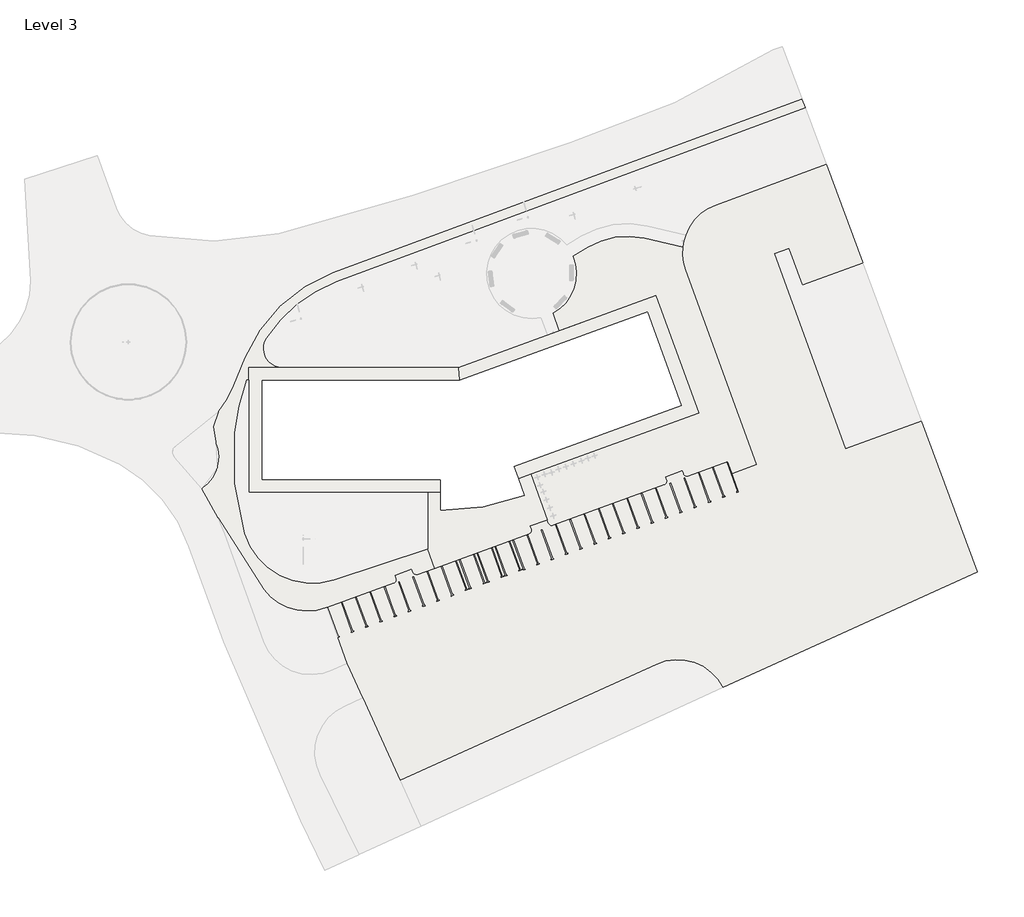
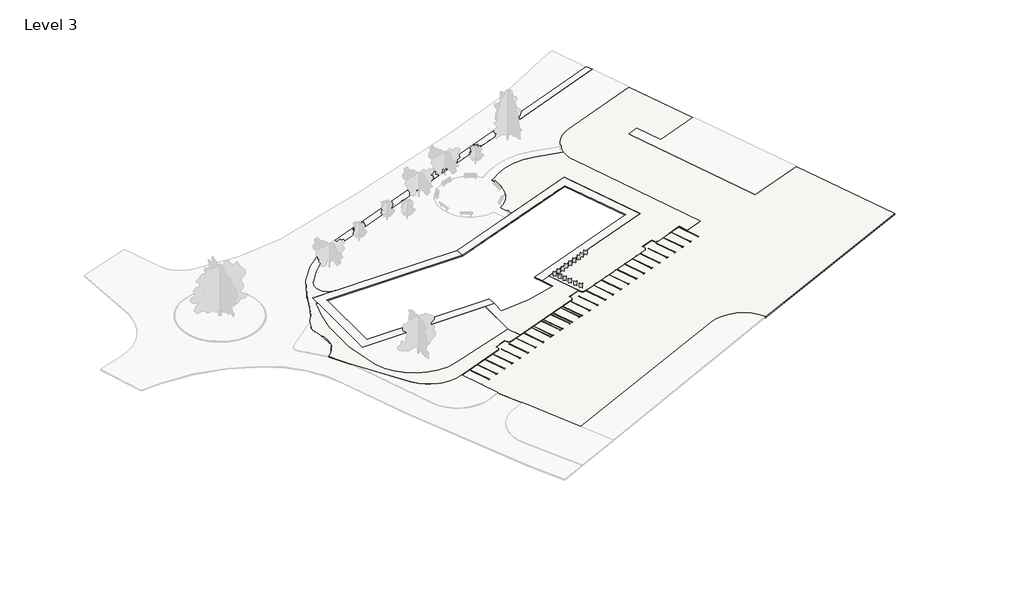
# One storey, part 2 of 3: 4 slabs.
"""IFC4 building model written with IfcOpenShell, lengths in millimetres."""

from ifc_helpers import new_model, si_unit, point, frame, frame_2d, origin, place, context, project, spatial, polyline, circle_curve, trimmed, segment, composite_curve, outline, extrude, element, save
from ifc_brep_helpers import plane_surface, cylinder_surface, revolved_surface, advanced_brep

model = new_model("IFC4")

# Units and contexts
model_context = context("Model", 3, world=origin())
ifc_project = project(units=[si_unit("LENGTHUNIT", "METRE", prefix="MILLI")], contexts=[model_context])

# Site, building, storey
site = spatial("IfcSite", under=ifc_project)
building = spatial("IfcBuilding", under=site)
storey = spatial("IfcBuildingStorey", under=building, Name="Level 3", Elevation=-150.0)

# Slabs
placement = place(None, origin())
element("IfcSlab", 1, ObjectType="HW - Concrete Paving Slans", at=placement, inside=storey, context=model_context, shape_type="AdvancedBrep", body=[
    advanced_brep(
    [(-2533.7024759, 19294.645713, -1500.0), (11319.0750339, 32678.6820825, -1500.0), (85362.1920702, 60148.6729587, -1500.0), (85883.9420896, 58742.3383907, -1500.0), (11840.8250534, 31272.3475144, -1500.0), (743.7486245, 22349.3339988, -1500.0), (3266.8588542, 17726.3999981, -1500.0), (-1999.9999988, 17726.3999977, -1500.0), (-1999.9999988, 15726.3999977, -1500.0), (-2330.8401022, 15726.3999977, -1500.0), (-4195.856914, 7441.3832849, -1500.0), (-2642.8025055, -8500.2270946, -1500.0), (11459.4893753, -15883.0044948, -1500.0), (26235.8132695, -10959.5697673, -1500.0), (27343.9409024, -14004.1254157, -1500.0), (24705.8710177, -14964.30433, -1500.0), (23936.8433592, -14605.7008435, -1500.0), (23765.8332874, -14135.8545332, -1500.0), (21048.2422282, -15124.9767879, -1500.0), (21219.2522999, -15594.8230984, -1500.0), (20860.6488135, -16363.8507568, -1500.0), (10293.394387, -20210.0168268, -1500.0), (361.689646, -17332.8249948, -1500.0), (-6798.1354124, -6055.3212881, -1500.0), (-9435.7614518, -1426.1466285, -1500.0), (-7225.4587436, 5980.7679513, -1500.0), (-6782.3087816, 10684.1792377, -1500.0), (-4338.0208149, 14901.10847, -1500.0), (-2533.7024759, 19294.645713, -150.0), (-4338.0208149, 14901.10847, -150.0), (-6782.3087816, 10684.1792377, -150.0), (-7225.4587436, 5980.7679513, -150.0), (-9435.7614518, -1426.1466285, -150.0), (-6798.1354124, -6055.3212881, -150.0), (361.689646, -17332.8249947, -150.0), (10293.394387, -20210.0168268, -150.0), (20860.6488135, -16363.8507567, -150.0), (21219.2522999, -15594.8230984, -150.0), (21048.2422282, -15124.9767879, -150.0), (23765.8332874, -14135.8545332, -150.0), (23936.843359, -14605.7008435, -150.0), (24705.8710177, -14964.30433, -150.0), (27343.9409024, -14004.1254157, -150.0), (26235.8132695, -10959.5697673, -150.0), (11459.4893753, -15883.0044948, -150.0), (-2642.8025055, -8500.2270946, -150.0), (-4195.856914, 7441.3832849, -150.0), (-2330.8401022, 15726.3999977, -150.0), (-1999.9999988, 15726.3999977, -150.0), (-1999.9999988, 17726.3999977, -150.0), (3266.8588542, 17726.3999981, -150.0), (743.7486245, 22349.3339988, -150.0), (11840.8250534, 31272.3475144, -150.0), (85883.9420896, 58742.3383907, -150.0), (85362.1920702, 60148.6729587, -150.0), (11319.0750339, 32678.6820825, -150.0)],
    [
        (0, 1, circle_curve(frame((19667.0753449, 10177.3289941, -1500.0), z_axis=(0.0, 0.0, -1.0), x_axis=(1.0, 0.0, 0.0)), 24000.0)),
        (1, 2),
        (2, 3),
        (3, 4),
        (4, 5, circle_curve(frame((19667.0753449, 10177.3289941, -1500.0), z_axis=(0.0, 0.0, 1.0), x_axis=(1.0, 0.0, 0.0)), 22500.0)),
        (5, 6, circle_curve(frame((3266.8588539, 20726.3999981, -1500.0), z_axis=(0.0, 0.0, 1.0), x_axis=(1.0, 0.0, 0.0)), 3000.0)),
        (6, 7),
        (7, 8),
        (8, 9),
        (9, 10, circle_curve(frame((33467.7934212, 3315.4475825, -1500.0), z_axis=(0.0, 0.0, 1.0), x_axis=(1.0, 0.0, 0.0)), 37888.9680777)),
        (10, 11, circle_curve(frame((34681.860266, 3182.4503372, -1500.0), z_axis=(0.0, 0.0, 1.0), x_axis=(1.0, 0.0, 0.0)), 39110.2979148)),
        (11, 12, circle_curve(frame((8101.4056004, -5137.2732662, -1500.0), z_axis=(0.0, 0.0, 1.0), x_axis=(1.0, 0.0, 0.0)), 11258.217722)),
        (12, 13),
        (13, 14),
        (14, 15),
        (15, 16, circle_curve(frame((24500.6589316, -14400.4887575, -1500.0), z_axis=(0.0, 0.0, -1.0), x_axis=(1.0, 0.0, 0.0)), 600.0)),
        (16, 17),
        (17, 18),
        (18, 19),
        (19, 20, circle_curve(frame((20655.4367274, -15800.0351843, -1500.0), z_axis=(0.0, 0.0, -1.0), x_axis=(1.0, 0.0, 0.0)), 600.0)),
        (20, 21),
        (21, 22, circle_curve(frame((7234.2316265, -12189.7679154, -1500.0), z_axis=(0.0, 0.0, -1.0), x_axis=(1.0, 0.0, 0.0)), 8583.872634)),
        (22, 23, circle_curve(frame((70084.3302911, 34844.0146056, -1500.0), z_axis=(0.0, 0.0, -1.0), x_axis=(1.0, 0.0, 0.0)), 87084.264992)),
        (23, 24, circle_curve(frame((-34025.202939, -18502.8226128, -1500.0), z_axis=(0.0, 0.0, 1.0), x_axis=(1.0, 0.0, 0.0)), 29937.4931369)),
        (24, 25, circle_curve(frame((-12598.9404573, 3551.0261947, -1500.0), z_axis=(0.0, 0.0, 1.0), x_axis=(1.0, 0.0, 0.0)), 5897.2833349)),
        (25, 26, circle_curve(frame((-2883.1840488, 7944.2260418, -1500.0), z_axis=(0.0, 0.0, -1.0), x_axis=(1.0, 0.0, 0.0)), 4765.5552875)),
        (26, 27, circle_curve(frame((-21009.666539, 21747.745805, -1500.0), z_axis=(0.0, 0.0, 1.0), x_axis=(1.0, 0.0, 0.0)), 18022.7693195)),
        (27, 0),
        (28, 29),
        (29, 30, circle_curve(frame((-21009.666539, 21747.745805, -150.0), z_axis=(0.0, 0.0, -1.0), x_axis=(1.0, 0.0, 0.0)), 18022.7693195)),
        (30, 31, circle_curve(frame((-2883.1840488, 7944.2260418, -150.0), z_axis=(0.0, 0.0, 1.0), x_axis=(1.0, 0.0, 0.0)), 4765.5552875)),
        (31, 32, circle_curve(frame((-12598.9404573, 3551.0261947, -150.0), z_axis=(0.0, 0.0, -1.0), x_axis=(1.0, 0.0, 0.0)), 5897.2833349)),
        (32, 33, circle_curve(frame((-34025.202939, -18502.8226128, -150.0), z_axis=(0.0, 0.0, -1.0), x_axis=(1.0, 0.0, 0.0)), 29937.4931369)),
        (33, 34, circle_curve(frame((70084.3302911, 34844.0146056, -150.0), z_axis=(0.0, 0.0, 1.0), x_axis=(1.0, 0.0, 0.0)), 87084.264992)),
        (34, 35, circle_curve(frame((7234.2316265, -12189.7679154, -150.0), z_axis=(0.0, 0.0, 1.0), x_axis=(1.0, 0.0, 0.0)), 8583.872634)),
        (35, 36),
        (36, 37, circle_curve(frame((20655.4367274, -15800.0351843, -150.0), z_axis=(0.0, 0.0, 1.0), x_axis=(1.0, 0.0, 0.0)), 600.0)),
        (37, 38),
        (38, 39),
        (39, 40),
        (40, 41, circle_curve(frame((24500.6589316, -14400.4887575, -150.0), z_axis=(0.0, 0.0, 1.0), x_axis=(1.0, 0.0, 0.0)), 600.0)),
        (41, 42),
        (42, 43),
        (43, 44),
        (44, 45, circle_curve(frame((8101.4056004, -5137.2732662, -150.0), z_axis=(0.0, 0.0, -1.0), x_axis=(1.0, 0.0, 0.0)), 11258.217722)),
        (45, 46, circle_curve(frame((34681.860266, 3182.4503372, -150.0), z_axis=(0.0, 0.0, -1.0), x_axis=(1.0, 0.0, 0.0)), 39110.2979148)),
        (46, 47, circle_curve(frame((33467.7934212, 3315.4475825, -150.0), z_axis=(0.0, 0.0, -1.0), x_axis=(1.0, 0.0, 0.0)), 37888.9680777)),
        (47, 48),
        (48, 49),
        (49, 50),
        (50, 51, circle_curve(frame((3266.8588539, 20726.3999981, -150.0), z_axis=(0.0, 0.0, -1.0), x_axis=(1.0, 0.0, 0.0)), 3000.0)),
        (51, 52, circle_curve(frame((19667.0753449, 10177.3289941, -150.0), z_axis=(0.0, 0.0, -1.0), x_axis=(1.0, 0.0, 0.0)), 22500.0)),
        (52, 53),
        (53, 54),
        (54, 55),
        (55, 28, circle_curve(frame((19667.0753449, 10177.3289941, -150.0), z_axis=(0.0, 0.0, 1.0), x_axis=(1.0, 0.0, 0.0)), 24000.0)),
        (0, 28),
        (55, 1),
        (54, 2),
        (53, 3),
        (52, 4),
        (51, 5),
        (50, 6),
        (49, 7),
        (48, 8),
        (47, 9),
        (46, 10),
        (45, 11),
        (44, 12),
        (43, 13),
        (42, 14),
        (41, 15),
        (40, 16),
        (39, 17),
        (38, 18),
        (37, 19),
        (36, 20),
        (35, 21),
        (34, 22),
        (33, 23),
        (32, 24),
        (31, 25),
        (30, 26),
        (29, 27),
    ],
    [
        plane_surface(frame((43667.0753449, 10177.3289941, -1500.0), z_axis=(0.0, 0.0, -1.0), x_axis=(0.0, -1.0, 0.0))),
        plane_surface(frame((43667.0753449, 10177.3289941, -150.0), z_axis=(0.0, 0.0, 1.0), x_axis=(0.0, 1.0, 0.0))),
        cylinder_surface(frame((19667.0753449, 10177.3289941, -150.0), z_axis=(0.0, 0.0, -1.0), x_axis=(1.0, 0.0, 0.0)), 24000.0),
        plane_surface(frame((11319.0750339, 32678.6820825, -1500.0), z_axis=(-0.34783334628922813, 0.9375563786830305, 0.0), x_axis=(0.0, 0.0, 1.0))),
        plane_surface(frame((85362.1920702, 60148.6729587, -1500.0), z_axis=(0.937556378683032, 0.34783334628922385, 0.0), x_axis=(0.0, 0.0, 1.0))),
        plane_surface(frame((85883.9420896, 58742.3383907, -1500.0), z_axis=(0.3478333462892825, -0.9375563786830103, 0.0), x_axis=(0.0, 0.0, 1.0))),
        revolved_surface(polyline([(42167.075344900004, 10177.3289941, -150.0), (42167.075344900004, 10177.3289941, -1500.0)]), (19667.0753449, 10177.3289941, -150.0), (0.0, 0.0, 1.0)),
        revolved_surface(polyline([(6266.8588539, 20726.3999981, -150.0), (6266.8588539, 20726.3999981, -1500.0)]), (3266.8588539, 20726.3999981, -150.0), (0.0, 0.0, 1.0)),
        plane_surface(frame((3266.8588542, 17726.3999981, -1500.0), z_axis=(7.702193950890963e-11, -1.0, 0.0), x_axis=(0.0, 0.0, 1.0))),
        plane_surface(frame((-1999.9999988, 17726.3999977, -1500.0), z_axis=(1.0, 0.0, 0.0), x_axis=(0.0, 0.0, 1.0))),
        plane_surface(frame((-1999.9999988, 15726.3999977, -1500.0), z_axis=(0.0, -1.0, 0.0), x_axis=(0.0, 0.0, 1.0))),
        revolved_surface(polyline([(71356.7614989, 3315.4475825, -150.0), (71356.7614989, 3315.4475825, -1500.0)]), (33467.7934212, 3315.4475825, -150.0), (0.0, 0.0, 1.0)),
        revolved_surface(polyline([(73792.1581808, 3182.4503372, -150.0), (73792.1581808, 3182.4503372, -1500.0)]), (34681.860266, 3182.4503372, -150.0), (0.0, 0.0, 1.0)),
        revolved_surface(polyline([(19359.6233224, -5137.2732662, -150.0), (19359.6233224, -5137.2732662, -1500.0)]), (8101.4056004, -5137.2732662, -150.0), (0.0, 0.0, 1.0)),
        plane_surface(frame((11459.4893753, -15883.0044948, -1500.0), z_axis=(-0.31611181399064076, 0.9487219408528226, 0.0), x_axis=(0.0, 0.0, 1.0))),
        plane_surface(frame((26235.8132695, -10959.5697673, -1500.0), z_axis=(0.939692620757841, 0.3420201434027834, 0.0), x_axis=(0.0, 0.0, 1.0))),
        plane_surface(frame((27343.9409024, -14004.1254157, -1500.0), z_axis=(0.34202014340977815, -0.9396926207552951, 0.0), x_axis=(0.0, 0.0, 1.0))),
        cylinder_surface(frame((24500.6589316, -14400.4887575, -150.0), z_axis=(0.0, 0.0, -1.0), x_axis=(1.0, 0.0, 0.0)), 600.0),
        plane_surface(frame((23936.843359, -14605.7008435, -1500.0), z_axis=(-0.9396926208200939, -0.342020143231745, 0.0), x_axis=(0.0, 0.0, 1.0))),
        plane_surface(frame((23765.8332874, -14135.8545332, -1500.0), z_axis=(0.3420201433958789, -0.939692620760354, 0.0), x_axis=(0.0, 0.0, 1.0))),
        plane_surface(frame((21048.2422282, -15124.9767879, -1500.0), z_axis=(0.939692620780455, 0.3420201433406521, 0.0), x_axis=(0.0, 0.0, 1.0))),
        cylinder_surface(frame((20655.4367274, -15800.0351843, -150.0), z_axis=(0.0, 0.0, -1.0), x_axis=(1.0, 0.0, 0.0)), 600.0),
        plane_surface(frame((20860.6488135, -16363.8507567, -1500.0), z_axis=(0.34202014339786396, -0.9396926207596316, 0.0), x_axis=(0.0, 0.0, 1.0))),
        cylinder_surface(frame((7234.2316265, -12189.7679154, -150.0), z_axis=(0.0, 0.0, -1.0), x_axis=(1.0, 0.0, 0.0)), 8583.872634),
        cylinder_surface(frame((70084.3302911, 34844.0146056, -150.0), z_axis=(0.0, 0.0, -1.0), x_axis=(1.0, 0.0, 0.0)), 87084.264992),
        revolved_surface(polyline([(-4087.709802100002, -18502.8226128, -150.0), (-4087.709802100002, -18502.8226128, -1500.0)]), (-34025.202939, -18502.8226128, -150.0), (0.0, 0.0, 1.0)),
        revolved_surface(polyline([(-6701.657122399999, 3551.0261947, -150.0), (-6701.657122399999, 3551.0261947, -1500.0)]), (-12598.9404573, 3551.0261947, -150.0), (0.0, 0.0, 1.0)),
        cylinder_surface(frame((-2883.1840488, 7944.2260418, -150.0), z_axis=(0.0, 0.0, -1.0), x_axis=(1.0, 0.0, 0.0)), 4765.5552875),
        revolved_surface(polyline([(-2986.8972195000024, 21747.745805, -150.0), (-2986.8972195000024, 21747.745805, -1500.0)]), (-21009.666539, 21747.745805, -150.0), (0.0, 0.0, 1.0)),
        plane_surface(frame((-4338.0208149, 14901.10847, -1500.0), z_axis=(-0.9250324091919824, 0.37988819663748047, 0.0), x_axis=(0.0, 0.0, 1.0))),
    ],
    [
        (0, [[1, 2, 3, 4, 5, 6, 7, 8, 9, 10, 11, 12, 13, 14, 15, 16, 17, 18, 19, 20, 21, 22, 23, 24, 25, 26, 27, 28]]),
        (1, [[29, 30, 31, 32, 33, 34, 35, 36, 37, 38, 39, 40, 41, 42, 43, 44, 45, 46, 47, 48, 49, 50, 51, 52, 53, 54, 55, 56]]),
        (2, [[-1, 57, -56, 58]]),
        (3, [[-2, -58, -55, 59]]),
        (4, [[-3, -59, -54, 60]]),
        (5, [[-4, -60, -53, 61]]),
        (6, [[-5, -61, -52, 62]]),
        (7, [[-6, -62, -51, 63]]),
        (8, [[-7, -63, -50, 64]]),
        (9, [[-8, -64, -49, 65]]),
        (10, [[-9, -65, -48, 66]]),
        (11, [[-10, -66, -47, 67]]),
        (12, [[-11, -67, -46, 68]]),
        (13, [[-12, -68, -45, 69]]),
        (14, [[-13, -69, -44, 70]]),
        (15, [[-14, -70, -43, 71]]),
        (16, [[-15, -71, -42, 72]]),
        (17, [[-16, -72, -41, 73]]),
        (18, [[-17, -73, -40, 74]]),
        (19, [[-18, -74, -39, 75]]),
        (20, [[-19, -75, -38, 76]]),
        (21, [[-20, -76, -37, 77]]),
        (22, [[-21, -77, -36, 78]]),
        (23, [[-22, -78, -35, 79]]),
        (24, [[-23, -79, -34, 80]]),
        (25, [[-24, -80, -33, 81]]),
        (26, [[-25, -81, -32, 82]]),
        (27, [[-26, -82, -31, 83]]),
        (28, [[-27, -83, -30, 84]]),
        (29, [[-28, -84, -29, -57]]),
    ],
),
])
element("IfcSlab", 2, ObjectType="HW - Block Paving Herringbone Bond", at=placement, inside=storey, context=model_context, shape_type="AdvancedBrep", body=[
    advanced_brep(
    [(72854.8615141, -32834.7337523, -550.0), (62413.3299219, -29161.4888246, -550.0), (21892.102352, -47535.3195724, -550.0), (13513.7889112, -29057.9780616, -550.0), (10293.394387, -20210.0168268, -550.0), (20860.6488135, -16363.8507568, -550.0), (21219.2522999, -15594.8230983, -550.0), (21048.2422282, -15124.9767879, -550.0), (23765.8332874, -14135.8545332, -550.0), (23936.8433592, -14605.7008435, -550.0), (24705.8710177, -14964.30433, -550.0), (27343.9409024, -14004.1254157, -550.0), (42229.2590094, -8586.312696, -550.0), (42587.8624958, -7817.2850373, -550.0), (42416.8524241, -7347.4387271, -550.0), (45134.4434836, -6358.3164723, -550.0), (45312.1342321, -6845.6628614, -550.0), (46074.4812136, -7186.7662691, -550.0), (63597.8692056, -808.7746351, -550.0), (63956.4726919, -39.7469764, -550.0), (63785.4626203, 430.0993338, -550.0), (66503.0536795, 1419.2215885, -550.0), (66674.0637513, 949.375278, -550.0), (67443.0914098, 590.7717917, -550.0), (73675.6616572, 2859.2418453, -550.0), (74359.701944, 979.8566038, -550.0), (78181.8427387, 2371.0020846, -550.0), (66971.6618256, 33170.7210039, -550.0), (71720.4515573, 43412.4811679, -550.0), (89181.6069928, 49853.7519521, -550.0), (94984.2393189, 34213.2303961, -550.0), (85434.5526674, 30737.4287076, -550.0), (83321.9952212, 36541.6325869, -550.0), (81084.2283756, 35727.1520637, -550.0), (92285.419034, 4952.1336662, -550.0), (104227.5262858, 9298.7052413, -550.0), (113090.3993638, -14590.4453427, -550.0), (72854.8615141, -32834.7337523, -300.0), (113090.3993638, -14590.4453427, -300.0), (104227.5262858, 9298.7052413, -300.0), (92285.419034, 4952.1336662, -300.0), (81084.2283756, 35727.1520637, -300.0), (83321.9952212, 36541.6325869, -300.0), (85434.5526674, 30737.4287076, -300.0), (94984.2393189, 34213.2303961, -300.0), (94940.7593168, 34330.4271911, -300.0), (89181.6069928, 49853.7519521, -300.0), (71720.4515573, 43412.4811679, -300.0), (66971.6618256, 33170.7210039, -300.0), (78181.8427387, 2371.0020846, -300.0), (74359.701944, 979.8566038, -300.0), (73675.6616572, 2859.2418453, -300.0), (67443.0914098, 590.7717918, -300.0), (66674.0637513, 949.375278, -300.0), (66503.0536795, 1419.2215885, -300.0), (63785.4626203, 430.0993338, -300.0), (63956.4726921, -39.7469764, -300.0), (63597.8692056, -808.7746351, -300.0), (46074.4812136, -7186.7662691, -300.0), (45312.1342321, -6845.6628614, -300.0), (45134.4434836, -6358.3164723, -300.0), (42416.8524241, -7347.4387271, -300.0), (42587.8624959, -7817.2850373, -300.0), (42229.2590094, -8586.312696, -300.0), (27343.9409024, -14004.1254157, -300.0), (24705.8710177, -14964.30433, -300.0), (23936.8433592, -14605.7008435, -300.0), (23765.8332874, -14135.8545332, -300.0), (21048.2422282, -15124.9767879, -300.0), (21219.2522999, -15594.8230983, -300.0), (20860.6488135, -16363.8507568, -300.0), (10293.394387, -20210.0168268, -300.0), (13513.7889112, -29057.9780616, -300.0), (15991.5863515, -34522.4560646, -300.0), (21892.102352, -47535.3195724, -300.0), (62413.3299219, -29161.4888247, -300.0)],
    [
        (0, 1, circle_curve(frame((65717.0598423, -36447.4594953, -550.0), z_axis=(0.0, 0.0, 1.0), x_axis=(1.0, 0.0, 0.0)), 8000.0)),
        (1, 2),
        (2, 3),
        (3, 4),
        (4, 5),
        (5, 6, circle_curve(frame((20655.4367274, -15800.0351843, -550.0), z_axis=(0.0, 0.0, 1.0), x_axis=(1.0, 0.0, 0.0)), 600.0)),
        (6, 7),
        (7, 8),
        (8, 9),
        (9, 10, circle_curve(frame((24500.6589316, -14400.4887575, -550.0), z_axis=(0.0, 0.0, 1.0), x_axis=(1.0, 0.0, 0.0)), 600.0)),
        (10, 11),
        (11, 12),
        (12, 13, circle_curve(frame((42024.0469234, -8022.4971235, -550.0), z_axis=(0.0, 0.0, 1.0), x_axis=(1.0, 0.0, 0.0)), 600.0)),
        (13, 14),
        (14, 15),
        (15, 16),
        (16, 17, circle_curve(frame((45869.2691276, -6622.9506967, -550.0), z_axis=(0.0, 0.0, 1.0), x_axis=(1.0, 0.0, 0.0)), 600.0)),
        (17, 18),
        (18, 19, circle_curve(frame((63392.6571195, -244.9590626, -550.0), z_axis=(0.0, 0.0, 1.0), x_axis=(1.0, 0.0, 0.0)), 600.0)),
        (19, 20),
        (20, 21),
        (21, 22),
        (22, 23, circle_curve(frame((67237.8793237, 1154.5873642, -550.0), z_axis=(0.0, 0.0, 1.0), x_axis=(1.0, 0.0, 0.0)), 600.0)),
        (23, 24),
        (24, 25),
        (25, 26),
        (26, 27),
        (27, 28, circle_curve(frame((74489.2027917, 35906.8821511, -550.0), z_axis=(0.0, 0.0, -1.0), x_axis=(1.0, 0.0, 0.0)), 8000.0)),
        (28, 29),
        (29, 30),
        (30, 31),
        (31, 32),
        (32, 33),
        (33, 34),
        (34, 35),
        (35, 36),
        (36, 0),
        (37, 38),
        (38, 39),
        (39, 40),
        (40, 41),
        (41, 42),
        (42, 43),
        (43, 44),
        (44, 45),
        (45, 46),
        (46, 47),
        (47, 48, circle_curve(frame((74489.2027917, 35906.8821511, -300.0), z_axis=(0.0, 0.0, 1.0), x_axis=(1.0, 0.0, 0.0)), 8000.0)),
        (48, 49),
        (49, 50),
        (50, 51),
        (51, 52),
        (52, 53, circle_curve(frame((67237.8793237, 1154.5873642, -300.0), z_axis=(0.0, 0.0, -1.0), x_axis=(1.0, 0.0, 0.0)), 600.0)),
        (53, 54),
        (54, 55),
        (55, 56),
        (56, 57, circle_curve(frame((63392.6571195, -244.9590626, -300.0), z_axis=(0.0, 0.0, -1.0), x_axis=(1.0, 0.0, 0.0)), 600.0)),
        (57, 58),
        (58, 59, circle_curve(frame((45869.2691276, -6622.9506967, -300.0), z_axis=(0.0, 0.0, -1.0), x_axis=(1.0, 0.0, 0.0)), 600.0)),
        (59, 60),
        (60, 61),
        (61, 62),
        (62, 63, circle_curve(frame((42024.0469234, -8022.4971235, -300.0), z_axis=(0.0, 0.0, -1.0), x_axis=(1.0, 0.0, 0.0)), 600.0)),
        (63, 64),
        (64, 65),
        (65, 66, circle_curve(frame((24500.6589316, -14400.4887575, -300.0), z_axis=(0.0, 0.0, -1.0), x_axis=(1.0, 0.0, 0.0)), 600.0)),
        (66, 67),
        (67, 68),
        (68, 69),
        (69, 70, circle_curve(frame((20655.4367274, -15800.0351843, -300.0), z_axis=(0.0, 0.0, -1.0), x_axis=(1.0, 0.0, 0.0)), 600.0)),
        (70, 71),
        (71, 72),
        (72, 73),
        (73, 74),
        (74, 75),
        (75, 37, circle_curve(frame((65717.0598423, -36447.4594953, -300.0), z_axis=(0.0, 0.0, -1.0), x_axis=(1.0, 0.0, 0.0)), 8000.0)),
        (0, 37),
        (75, 1),
        (74, 2),
        (72, 3),
        (71, 4),
        (70, 5),
        (69, 6),
        (68, 7),
        (67, 8),
        (66, 9),
        (65, 10),
        (64, 11),
        (63, 12),
        (62, 13),
        (61, 14),
        (60, 15),
        (59, 16),
        (58, 17),
        (57, 18),
        (56, 19),
        (55, 20),
        (54, 21),
        (53, 22),
        (52, 23),
        (51, 24),
        (50, 25),
        (49, 26),
        (48, 27),
        (47, 28),
        (46, 29),
        (44, 30),
        (43, 31),
        (42, 32),
        (41, 33),
        (40, 34),
        (39, 35),
        (38, 36),
    ],
    [
        plane_surface(frame((73717.0598423, -36447.4594953, -550.0), z_axis=(0.0, 0.0, -1.0), x_axis=(0.0, 1.0, 0.0))),
        plane_surface(frame((73717.0598423, -36447.4594953, -300.0), z_axis=(0.0, 0.0, 1.0), x_axis=(0.0, -1.0, 0.0))),
        revolved_surface(polyline([(73717.0598423, -36447.4594953, -300.0), (73717.0598423, -36447.4594953, -550.0)]), (65717.0598423, -36447.4594953, -300.0), (0.0, 0.0, 1.0)),
        plane_surface(frame((62413.3299219, -29161.4888247, -550.0), z_axis=(0.4129662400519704, -0.9107463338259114, 0.0), x_axis=(0.0, 0.0, 1.0))),
        plane_surface(frame((21892.102352, -47535.3195724, -550.0), z_axis=(-0.9107463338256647, -0.4129662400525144, 0.0), x_axis=(0.0, 0.0, 1.0))),
        plane_surface(frame((13513.7889112, -29057.9780616, -550.0), z_axis=(-0.939692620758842, -0.3420201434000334, 0.0), x_axis=(0.0, 0.0, 1.0))),
        plane_surface(frame((10293.394387, -20210.0168268, -550.0), z_axis=(-0.34202014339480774, 0.9396926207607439, 0.0), x_axis=(0.0, 0.0, 1.0))),
        revolved_surface(polyline([(21255.4367274, -15800.0351843, -300.0), (21255.4367274, -15800.0351843, -550.0)]), (20655.4367274, -15800.0351843, -300.0), (0.0, 0.0, 1.0)),
        plane_surface(frame((21219.2522999, -15594.8230983, -550.0), z_axis=(-0.9396926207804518, -0.3420201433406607, 0.0), x_axis=(0.0, 0.0, 1.0))),
        plane_surface(frame((21048.2422282, -15124.9767879, -550.0), z_axis=(-0.3420201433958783, 0.9396926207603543, 0.0), x_axis=(0.0, 0.0, 1.0))),
        plane_surface(frame((23765.8332874, -14135.8545332, -550.0), z_axis=(0.9396926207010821, 0.3420201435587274, 0.0), x_axis=(0.0, 0.0, 1.0))),
        revolved_surface(polyline([(25100.6589316, -14400.4887575, -300.0), (25100.6589316, -14400.4887575, -550.0)]), (24500.6589316, -14400.4887575, -300.0), (0.0, 0.0, 1.0)),
        plane_surface(frame((24705.8710177, -14964.30433, -550.0), z_axis=(-0.3420201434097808, 0.9396926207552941, 0.0), x_axis=(0.0, 0.0, 1.0))),
        plane_surface(frame((27343.9409024, -14004.1254157, -550.0), z_axis=(-0.34202014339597, 0.9396926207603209, 0.0), x_axis=(0.0, 0.0, 1.0))),
        revolved_surface(polyline([(42624.0469234, -8022.4971235, -300.0), (42624.0469234, -8022.4971235, -550.0)]), (42024.0469234, -8022.4971235, -300.0), (0.0, 0.0, 1.0)),
        plane_surface(frame((42587.8624959, -7817.2850373, -550.0), z_axis=(-0.9396926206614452, -0.3420201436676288, 0.0), x_axis=(0.0, 0.0, 1.0))),
        plane_surface(frame((42416.8524241, -7347.4387271, -550.0), z_axis=(-0.3420201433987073, 0.9396926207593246, 0.0), x_axis=(0.0, 0.0, 1.0))),
        plane_surface(frame((45134.4434836, -6358.3164723, -550.0), z_axis=(0.9394996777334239, 0.3425497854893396, 0.0), x_axis=(0.0, 0.0, 1.0))),
        revolved_surface(polyline([(46469.2691276, -6622.9506967, -300.0), (46469.2691276, -6622.9506967, -550.0)]), (45869.2691276, -6622.9506967, -300.0), (0.0, 0.0, 1.0)),
        plane_surface(frame((46074.4812136, -7186.7662691, -550.0), z_axis=(-0.34202014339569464, 0.939692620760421, 0.0), x_axis=(0.0, 0.0, 1.0))),
        revolved_surface(polyline([(63992.6571195, -244.9590626, -300.0), (63992.6571195, -244.9590626, -550.0)]), (63392.6571195, -244.9590626, -300.0), (0.0, 0.0, 1.0)),
        plane_surface(frame((63956.4726921, -39.7469764, -550.0), z_axis=(-0.939692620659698, -0.3420201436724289, 0.0), x_axis=(0.0, 0.0, 1.0))),
        plane_surface(frame((63785.4626203, 430.0993338, -550.0), z_axis=(-0.34202014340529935, 0.9396926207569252, 0.0), x_axis=(0.0, 0.0, 1.0))),
        plane_surface(frame((66503.0536795, 1419.2215885, -550.0), z_axis=(0.9396926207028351, 0.34202014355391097, 0.0), x_axis=(0.0, 0.0, 1.0))),
        revolved_surface(polyline([(67837.8793237, 1154.5873642, -300.0), (67837.8793237, 1154.5873642, -550.0)]), (67237.8793237, 1154.5873642, -300.0), (0.0, 0.0, 1.0)),
        plane_surface(frame((67443.0914098, 590.7717918, -550.0), z_axis=(-0.3420201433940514, 0.9396926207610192, 0.0), x_axis=(0.0, 0.0, 1.0))),
        plane_surface(frame((73675.6616572, 2859.2418453, -550.0), z_axis=(0.939692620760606, 0.34202014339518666, 0.0), x_axis=(0.0, 0.0, 1.0))),
        plane_surface(frame((74359.701944, 979.8566038, -550.0), z_axis=(-0.34202014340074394, 0.9396926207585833, 0.0), x_axis=(0.0, 0.0, 1.0))),
        plane_surface(frame((78181.8427387, 2371.0020846, -550.0), z_axis=(-0.9396926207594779, -0.34202014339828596, 0.0), x_axis=(0.0, 0.0, 1.0))),
        cylinder_surface(frame((74489.2027917, 35906.8821511, -300.0), z_axis=(0.0, 0.0, -1.0), x_axis=(1.0, 0.0, 0.0)), 8000.0),
        plane_surface(frame((71720.4515573, 43412.4811679, -550.0), z_axis=(-0.34609390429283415, 0.9381998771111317, 0.0), x_axis=(0.0, 0.0, 1.0))),
        plane_surface(frame((89181.6069928, 49853.7519521, -550.0), z_axis=(0.9375563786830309, 0.34783334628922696, 0.0), x_axis=(0.0, 0.0, 1.0))),
        plane_surface(frame((94984.2393189, 34213.2303961, -550.0), z_axis=(0.34202014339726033, -0.9396926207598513, 0.0), x_axis=(0.0, 0.0, 1.0))),
        plane_surface(frame((85434.5526674, 30737.4287076, -550.0), z_axis=(-0.9396926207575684, -0.3420201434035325, 0.0), x_axis=(0.0, 0.0, 1.0))),
        plane_surface(frame((83321.9952212, 36541.6325869, -550.0), z_axis=(0.3420201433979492, -0.9396926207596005, 0.0), x_axis=(0.0, 0.0, 1.0))),
        plane_surface(frame((81084.2283756, 35727.1520637, -550.0), z_axis=(0.9396926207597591, 0.34202014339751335, 0.0), x_axis=(0.0, 0.0, 1.0))),
        plane_surface(frame((92285.419034, 4952.1336662, -550.0), z_axis=(-0.34202014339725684, 0.9396926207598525, 0.0), x_axis=(0.0, 0.0, 1.0))),
        plane_surface(frame((104227.5262858, 9298.7052413, -550.0), z_axis=(0.9375563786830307, 0.34783334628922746, 0.0), x_axis=(0.0, 0.0, 1.0))),
        plane_surface(frame((113090.3993638, -14590.4453427, -550.0), z_axis=(0.4129662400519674, -0.9107463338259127, 0.0), x_axis=(0.0, 0.0, 1.0))),
    ],
    [
        (0, [[1, 2, 3, 4, 5, 6, 7, 8, 9, 10, 11, 12, 13, 14, 15, 16, 17, 18, 19, 20, 21, 22, 23, 24, 25, 26, 27, 28, 29, 30, 31, 32, 33, 34, 35, 36, 37]]),
        (1, [[38, 39, 40, 41, 42, 43, 44, 45, 46, 47, 48, 49, 50, 51, 52, 53, 54, 55, 56, 57, 58, 59, 60, 61, 62, 63, 64, 65, 66, 67, 68, 69, 70, 71, 72, 73, 74, 75, 76]]),
        (2, [[-1, 77, -76, 78]]),
        (3, [[-2, -78, -75, 79]]),
        (4, [[-3, -79, -74, -73, 80]]),
        (5, [[-4, -80, -72, 81]]),
        (6, [[-5, -81, -71, 82]]),
        (7, [[-6, -82, -70, 83]]),
        (8, [[-7, -83, -69, 84]]),
        (9, [[-8, -84, -68, 85]]),
        (10, [[-9, -85, -67, 86]]),
        (11, [[-10, -86, -66, 87]]),
        (12, [[-11, -87, -65, 88]]),
        (13, [[-12, -88, -64, 89]]),
        (14, [[-13, -89, -63, 90]]),
        (15, [[-14, -90, -62, 91]]),
        (16, [[-15, -91, -61, 92]]),
        (17, [[-16, -92, -60, 93]]),
        (18, [[-17, -93, -59, 94]]),
        (19, [[-18, -94, -58, 95]]),
        (20, [[-19, -95, -57, 96]]),
        (21, [[-20, -96, -56, 97]]),
        (22, [[-21, -97, -55, 98]]),
        (23, [[-22, -98, -54, 99]]),
        (24, [[-23, -99, -53, 100]]),
        (25, [[-24, -100, -52, 101]]),
        (26, [[-25, -101, -51, 102]]),
        (27, [[-26, -102, -50, 103]]),
        (28, [[-27, -103, -49, 104]]),
        (29, [[-28, -104, -48, 105]]),
        (30, [[-29, -105, -47, 106]]),
        (31, [[-30, -106, -46, -45, 107]]),
        (32, [[-31, -107, -44, 108]]),
        (33, [[-32, -108, -43, 109]]),
        (34, [[-33, -109, -42, 110]]),
        (35, [[-34, -110, -41, 111]]),
        (36, [[-35, -111, -40, 112]]),
        (37, [[-36, -112, -39, 113]]),
        (38, [[-37, -113, -38, -77]]),
    ],
),
])
element("IfcSlab", 3, ObjectType="HW - Block Paving Staggered Bond", at=placement, inside=storey, context=model_context, shape_type="AdvancedBrep", body=[
    advanced_brep(
    [(69042.5031862, 10525.5287009, -400.0), (69042.5031862, 10525.5287009, -150.0), (42500.7193364, 865.109413, -150.0), (42500.7193364, 865.109413, -400.0), (45134.4434836, -6358.3164723, -150.0), (45134.4434836, -6358.3164723, -400.0), (42416.8524241, -7347.4387271, -150.0), (42416.8524241, -7347.4387271, -400.0), (42587.8624959, -7817.2850373, -150.0), (42587.8624959, -7817.2850373, -400.0), (42229.2590094, -8586.312696, -150.0), (42229.2590094, -8586.312696, -400.0), (27343.9409024, -14004.1254157, -150.0), (27343.9409024, -14004.1254157, -400.0), (26235.8132695, -10959.5697673, -150.0), (26235.8132695, -10959.5697673, -400.0), (26251.8766591, -1999.9999998, -150.0), (26251.8766591, -1999.9999998, -400.0), (-1999.9999998, -1999.9999998, -150.0), (-1999.9999998, -1999.9999998, -400.0), (-1999.9999987, 17726.3999977, -150.0), (-1999.9999987, 17726.3999977, -400.0), (31150.5993698, 17726.4000003, -150.0), (31150.5993698, 17726.4000003, -400.0), (62295.6770296, 29062.281215, -150.0), (62295.6770296, 29062.281215, -400.0), (58.0000003, -61.9999991, -400.0), (58.0000003, -61.9999991, -150.0), (28251.8766928, -61.9999991, -150.0), (28251.8766928, -61.9999991, -400.0), (28251.8766928, -1999.9999998, -150.0), (28251.8766928, -4883.5071854, -150.0), (28251.8766928, -4883.5071854, -400.0), (28251.8766928, -1999.9999998, -400.0), (41607.5513774, -2528.5413917, -150.0), (41607.5513774, -2528.5413917, -400.0), (40621.3338367, 181.0690324, -150.0), (39937.2935497, 2060.4542748, -150.0), (39937.2935497, 2060.4542748, -400.0), (40621.3338367, 181.0690324, -400.0), (66392.1560902, 11689.2367903, -150.0), (66392.1560902, 11689.2367903, -400.0), (60992.2052604, 26525.4797628, -150.0), (60992.2052604, 26525.4797628, -400.0), (31321.9774605, 15726.4000006, -150.0), (31321.9774605, 15726.4000006, -400.0), (58.0000028, 15726.4000006, -150.0), (58.0000028, 15726.4000006, -400.0)],
    [
        (0, 1),
        (1, 2),
        (2, 3),
        (3, 0),
        (2, 4),
        (4, 5),
        (5, 3),
        (4, 6),
        (6, 7),
        (7, 5),
        (6, 8),
        (8, 9),
        (9, 7),
        (8, 10, circle_curve(frame((42024.0469234, -8022.4971235, -150.0), z_axis=(0.0, 0.0, -1.0), x_axis=(1.0, 0.0, 0.0)), 600.0)),
        (10, 11),
        (11, 9, circle_curve(frame((42024.0469234, -8022.4971235, -400.0), z_axis=(0.0, 0.0, 1.0), x_axis=(1.0, 0.0, 0.0)), 600.0)),
        (10, 12),
        (12, 13),
        (13, 11),
        (12, 14),
        (14, 15),
        (15, 13),
        (14, 16),
        (16, 17),
        (17, 15),
        (16, 18),
        (18, 19),
        (19, 17),
        (18, 20),
        (20, 21),
        (21, 19),
        (20, 22),
        (22, 23),
        (23, 21),
        (22, 24),
        (24, 25),
        (25, 23),
        (24, 1),
        (0, 25),
        (26, 27),
        (27, 28),
        (28, 29),
        (29, 26),
        (28, 30),
        (30, 31),
        (31, 32),
        (32, 33),
        (33, 29),
        (31, 34, circle_curve(frame((28251.8763139, 34165.8753543, -150.0), z_axis=(0.0, 0.0, 1.0), x_axis=(1.0, 0.0, 0.0)), 39049.3825396)),
        (34, 35),
        (35, 32, circle_curve(frame((28251.8763139, 34165.8753543, -400.0), z_axis=(0.0, 0.0, -1.0), x_axis=(1.0, 0.0, 0.0)), 39049.3825396)),
        (34, 36),
        (36, 37),
        (37, 38),
        (38, 39),
        (39, 35),
        (37, 40),
        (40, 41),
        (41, 38),
        (40, 42),
        (42, 43),
        (43, 41),
        (42, 44),
        (44, 45),
        (45, 43),
        (44, 46),
        (46, 47),
        (47, 45),
        (46, 27),
        (26, 47),
        (22, 44),
        (36, 2),
        (30, 16),
        (23, 45),
        (33, 17),
        (3, 39),
    ],
    [
        plane_surface(frame((69042.5031862, 10525.5287009, -400.0), z_axis=(0.34202014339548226, -0.9396926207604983, 0.0), x_axis=(0.0, 0.0, 1.0))),
        plane_surface(frame((42500.7193364, 865.109413, -400.0), z_axis=(0.9394996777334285, 0.34254978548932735, 0.0), x_axis=(0.0, 0.0, 1.0))),
        plane_surface(frame((45134.4434836, -6358.3164723, -400.0), z_axis=(0.34202014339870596, -0.939692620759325, 0.0), x_axis=(0.0, 0.0, 1.0))),
        plane_surface(frame((42416.8524241, -7347.4387271, -400.0), z_axis=(0.9396926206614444, 0.3420201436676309, 0.0), x_axis=(0.0, 0.0, 1.0))),
        cylinder_surface(frame((42024.0469234, -8022.4971235, -150.0), z_axis=(0.0, 0.0, -1.0), x_axis=(1.0, 0.0, 0.0)), 600.0),
        plane_surface(frame((42229.2590094, -8586.312696, -400.0), z_axis=(0.3420201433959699, -0.9396926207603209, 0.0), x_axis=(0.0, 0.0, 1.0))),
        plane_surface(frame((27343.9409024, -14004.1254157, -400.0), z_axis=(-0.9396926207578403, -0.3420201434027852, 0.0), x_axis=(0.0, 0.0, 1.0))),
        plane_surface(frame((26235.8132695, -10959.5697673, -400.0), z_axis=(-0.9999983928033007, 0.0017928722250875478, 0.0), x_axis=(0.0, 0.0, 1.0))),
        plane_surface(frame((26251.8766591, -1999.9999998, -400.0), z_axis=(0.0, -1.0, 0.0), x_axis=(0.0, 0.0, 1.0))),
        plane_surface(frame((-1999.9999998, -1999.9999998, -400.0), z_axis=(-1.0, 5.6589282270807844e-11, 0.0), x_axis=(0.0, 0.0, 1.0))),
        plane_surface(frame((-1999.9999987, 17726.3999977, -400.0), z_axis=(-7.702198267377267e-11, 1.0, 0.0), x_axis=(0.0, 0.0, 1.0))),
        plane_surface(frame((31150.5993698, 17726.4000003, -400.0), z_axis=(-0.34202014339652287, 0.9396926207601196, 0.0), x_axis=(0.0, 0.0, 1.0))),
        plane_surface(frame((62295.6770296, 29062.281215, -400.0), z_axis=(0.9396926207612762, 0.34202014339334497, 0.0), x_axis=(0.0, 0.0, 1.0))),
        plane_surface(frame((58.0000003, -61.9999991, -400.0), z_axis=(0.0, 1.0, 0.0), x_axis=(0.0, 0.0, 1.0))),
        plane_surface(frame((28251.8766928, -61.9999991, -400.0), z_axis=(1.0, 0.0, 0.0), x_axis=(0.0, 0.0, 1.0))),
        revolved_surface(polyline([(67301.25885350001, 34165.8753543, -150.0), (67301.25885350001, 34165.8753543, -400.0)]), (28251.8763139, 34165.8753543, -150.0), (0.0, 0.0, 1.0)),
        plane_surface(frame((41607.5513774, -2528.5413917, -400.0), z_axis=(-0.9396926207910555, -0.3420201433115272, 0.0), x_axis=(0.0, 0.0, 1.0))),
        plane_surface(frame((39937.2935497, 2060.4542748, -400.0), z_axis=(-0.3420201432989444, 0.9396926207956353, 0.0), x_axis=(0.0, 0.0, 1.0))),
        plane_surface(frame((66392.1560902, 11689.2367903, -400.0), z_axis=(-0.9396926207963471, -0.3420201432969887, 0.0), x_axis=(0.0, 0.0, 1.0))),
        plane_surface(frame((60992.2052604, 26525.4797628, -400.0), z_axis=(0.34202014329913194, -0.939692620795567, 0.0), x_axis=(0.0, 0.0, 1.0))),
        plane_surface(frame((31321.9774605, 15726.4000006, -400.0), z_axis=(0.0, -1.0, 0.0), x_axis=(0.0, 0.0, 1.0))),
        plane_surface(frame((58.0000028, 15726.4000006, -400.0), z_axis=(1.0, -1.6003518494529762e-10, 0.0), x_axis=(0.0, 0.0, 1.0))),
        plane_surface(frame((50219.2182229, 14187.1062221, -150.0), z_axis=(0.0, 0.0, 1.0000000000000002), x_axis=(-0.9396926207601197, -0.3420201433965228, 0.0))),
        plane_surface(frame((36119.450515, -5453.2431872, -150.0), z_axis=(0.0, 0.0, 1.0), x_axis=(-0.0017928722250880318, -0.9999983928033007, 0.0))),
        plane_surface(frame((14386.5412775, 7847.7000002, -150.0), z_axis=(0.0, 0.0, 1.0), x_axis=(-1.0, -7.702204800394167e-11, 0.0))),
        plane_surface(frame((14386.5412775, 7847.7000002, -400.0), z_axis=(0.0, 0.0, -1.0), x_axis=(-1.0, -7.702204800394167e-11, 0.0))),
        plane_surface(frame((50219.2182229, 14187.1062221, -400.0), z_axis=(0.0, 0.0, -1.0000000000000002), x_axis=(-0.9396926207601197, -0.3420201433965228, 0.0))),
        plane_surface(frame((36119.450515, -5453.2431872, -400.0), z_axis=(0.0, 0.0, -1.0), x_axis=(-0.0017928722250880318, -0.9999983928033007, 0.0))),
    ],
    [
        (0, [[1, 2, 3, 4]]),
        (1, [[-3, 5, 6, 7]]),
        (2, [[-6, 8, 9, 10]]),
        (3, [[-9, 11, 12, 13]]),
        (4, [[-12, 14, 15, 16]]),
        (5, [[-15, 17, 18, 19]]),
        (6, [[-18, 20, 21, 22]]),
        (7, [[-21, 23, 24, 25]]),
        (8, [[-24, 26, 27, 28]]),
        (9, [[-27, 29, 30, 31]]),
        (10, [[-30, 32, 33, 34]]),
        (11, [[-33, 35, 36, 37]]),
        (12, [[-36, 38, -1, 39]]),
        (13, [[40, 41, 42, 43]]),
        (14, [[-42, 44, 45, 46, 47, 48]]),
        (15, [[-46, 49, 50, 51]]),
        (16, [[-50, 52, 53, 54, 55, 56]]),
        (17, [[-54, 57, 58, 59]]),
        (18, [[-58, 60, 61, 62]]),
        (19, [[-61, 63, 64, 65]]),
        (20, [[-64, 66, 67, 68]]),
        (21, [[-67, 69, -40, 70]]),
        (22, [[-35, 71, -63, -60, -57, -53, 72, -2, -38]]),
        (23, [[-23, -20, -17, -14, -11, -8, -5, -72, -52, -49, -45, 73]]),
        (24, [[-32, -29, -26, -73, -44, -41, -69, -66, -71]]),
        (25, [[74, -68, -70, -43, -48, 75, -28, -31, -34]]),
        (26, [[-39, -4, 76, -55, -59, -62, -65, -74, -37]]),
        (27, [[-75, -47, -51, -56, -76, -7, -10, -13, -16, -19, -22, -25]]),
    ],
),
])
element("IfcSlab", 4, ObjectType="SW - Grass", at=placement, inside=storey, context=model_context, shape_type="SweptSolid", body=[
    extrude(outline(composite_curve([segment(polyline([(62295.6770296, 29062.281215), (47069.7034268, 23520.4800346), (46061.9571485, 26289.2401782)]), True, "CONTINUOUS"), segment(trimmed(circle_curve(frame_2d((42709.4084348, 32576.4876649)), 7125.2413178), [point((46061.9571485, 26289.2401782))], [point((49273.5631912, 35347.9378578))], True, "CARTESIAN"), True, "CONTINUOUS"), segment(polyline([(49273.5631912, 35347.9378578), (51580.0185313, 36731.4861285)]), True, "CONTINUOUS"), segment(trimmed(circle_curve(frame_2d((57752.9015831, 26440.9314871)), 12000.0), [point((51580.0185313, 36731.4861285))], [point((60462.0586207, 38131.1183181))], False, "CARTESIAN"), True, "CONTINUOUS"), segment(polyline([(60462.0586207, 38131.1183181), (66531.1079215, 36724.6388612)]), True, "CONTINUOUS"), segment(trimmed(circle_curve(frame_2d((74489.2027917, 35906.8821511)), 8000.0), [point((66531.1079215, 36724.6388612))], [point((66971.6618256, 33170.7210039))], True, "CARTESIAN"), True, "CONTINUOUS"), segment(polyline([(66971.6618256, 33170.7210039), (78181.8427387, 2371.0020846), (74359.701944, 979.8566038), (73675.6616572, 2859.2418453), (67443.0914098, 590.7717918)]), True, "CONTINUOUS"), segment(trimmed(circle_curve(frame_2d((67237.8793237, 1154.5873642)), 600.0), [point((67443.0914098, 590.7717918))], [point((66674.0637513, 949.375278))], False, "CARTESIAN"), True, "CONTINUOUS"), segment(polyline([(66674.0637513, 949.375278), (66503.0536795, 1419.2215885), (63785.4626203, 430.0993338), (63956.4726921, -39.7469764)]), True, "CONTINUOUS"), segment(trimmed(circle_curve(frame_2d((63392.6571195, -244.9590626)), 600.0), [point((63956.4726921, -39.7469764))], [point((63597.8692056, -808.7746351))], False, "CARTESIAN"), True, "CONTINUOUS"), segment(polyline([(63597.8692056, -808.7746351), (46074.4812136, -7186.7662691)]), True, "CONTINUOUS"), segment(trimmed(circle_curve(frame_2d((45869.2691276, -6622.9506967)), 600.0), [point((46074.4812136, -7186.7662691))], [point((45312.1342321, -6845.6628614))], False, "CARTESIAN"), True, "CONTINUOUS"), segment(polyline([(45312.1342321, -6845.6628614), (42500.7193364, 865.109413), (69042.5031862, 10525.5287009), (62295.6770296, 29062.281215)]), True, "CONTINUOUS")], self_intersect=False)), frame((0.0, 0.0, -450.0), z_axis=(0.0, 0.0, 1.0), x_axis=(1.0, 0.0, 0.0)), (0.0, 0.0, 1.0), 300.0),
])

save(model, "model.ifc")
